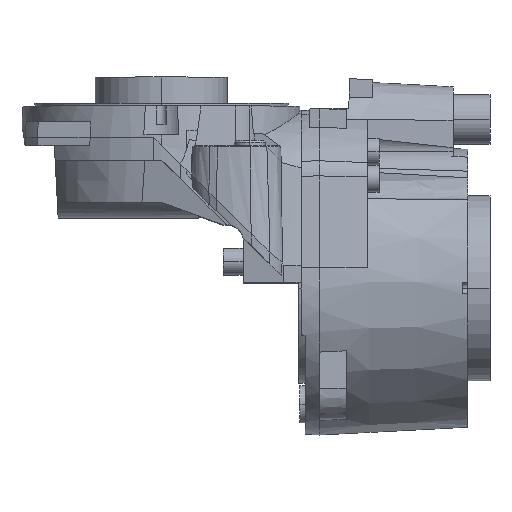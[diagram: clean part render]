
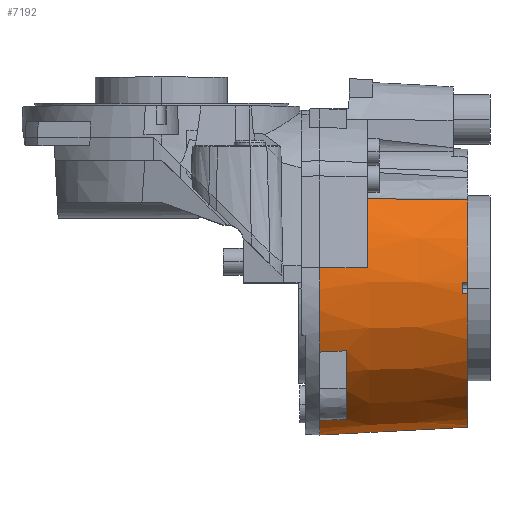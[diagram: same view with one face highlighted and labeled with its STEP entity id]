
A CAD part, top view. The second image highlights one B-rep face of the part: STEP entity #7192.
In plain terms, the highlighted conical face has half-angle 3 degrees and reference radius 55.564 mm.
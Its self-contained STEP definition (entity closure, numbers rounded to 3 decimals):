
#205 = EDGE_CURVE ( 'NONE', #16103, #9442, #13504, .T. ) ;
#396 = B_SPLINE_CURVE_WITH_KNOTS ( 'NONE', 3,
 ( #16641, #12736, #10193, #2294 ),
 .UNSPECIFIED., .F., .F.,
 ( 4, 4 ),
 ( 0., 1. ),
 .UNSPECIFIED. ) ;
#440 = DIRECTION ( 'NONE',  ( 1., 0., 0. ) ) ;
#576 = CARTESIAN_POINT ( 'NONE',  ( 996., 0., 1495. ) ) ;
#623 = ORIENTED_EDGE ( 'NONE', *, *, #8823, .F. ) ;
#784 = CARTESIAN_POINT ( 'NONE',  ( 1008., 7.755, 1549.385 ) ) ;
#847 = CARTESIAN_POINT ( 'NONE',  ( 1052., 0., 1495. ) ) ;
#883 = EDGE_CURVE ( 'NONE', #13689, #16271, #13375, .T. ) ;
#1012 = AXIS2_PLACEMENT_3D ( 'NONE', #12390, #12336, #12213 ) ;
#1168 = AXIS2_PLACEMENT_3D ( 'NONE', #576, #7164, #12454 ) ;
#1274 = ORIENTED_EDGE ( 'NONE', *, *, #7535, .T. ) ;
#1296 = VERTEX_POINT ( 'NONE', #5242 ) ;
#2005 = CARTESIAN_POINT ( 'NONE',  ( 996., 0., 1495. ) ) ;
#2041 = CIRCLE ( 'NONE', #10278, 55.564 ) ;
#2163 = VERTEX_POINT ( 'NONE', #15653 ) ;
#2207 = DIRECTION ( 'NONE',  ( 0., 0., 1. ) ) ;
#2221 = ORIENTED_EDGE ( 'NONE', *, *, #15059, .T. ) ;
#2255 = CARTESIAN_POINT ( 'NONE',  ( 1002., 7.744, 1549.704 ) ) ;
#2294 = CARTESIAN_POINT ( 'NONE',  ( 1006., -23.752, 1544.651 ) ) ;
#2320 = CIRCLE ( 'NONE', #15517, 54.62 ) ;
#2434 = AXIS2_PLACEMENT_3D ( 'NONE', #13759, #5888, #15015 ) ;
#2524 = CARTESIAN_POINT ( 'NONE',  ( 996., -55.564, 1495. ) ) ;
#2563 = EDGE_CURVE ( 'NONE', #16103, #13689, #9986, .T. ) ;
#2608 = ORIENTED_EDGE ( 'NONE', *, *, #15365, .T. ) ;
#2769 = CARTESIAN_POINT ( 'NONE',  ( 1050., 2., 1547.696 ) ) ;
#3167 = CARTESIAN_POINT ( 'NONE',  ( 1014., 0., 1495. ) ) ;
#3189 = CARTESIAN_POINT ( 'NONE',  ( 1052., -52.629, 1495. ) ) ;
#3206 = EDGE_LOOP ( 'NONE', ( #3888, #16172, #5151, #6043, #16656, #623, #7703, #7135, #2221, #10656, #2608, #1274, #16550, #13163 ) ) ;
#3332 = DIRECTION ( 'NONE',  ( 0., -1., 0. ) ) ;
#3888 = ORIENTED_EDGE ( 'NONE', *, *, #205, .F. ) ;
#3963 = AXIS2_PLACEMENT_3D ( 'NONE', #847, #10106, #2207 ) ;
#4200 = EDGE_CURVE ( 'NONE', #6670, #2163, #10479, .T. ) ;
#4211 = EDGE_CURVE ( 'NONE', #10808, #1296, #2320, .T. ) ;
#4248 = CARTESIAN_POINT ( 'NONE',  ( 996., -55.564, 1495. ) ) ;
#4313 = EDGE_CURVE ( 'NONE', #16886, #9442, #8506, .T. ) ;
#4331 = CARTESIAN_POINT ( 'NONE',  ( 1006., -49.651, 1518.752 ) ) ;
#4498 = DIRECTION ( 'NONE',  ( 0., -1., 0. ) ) ;
#4703 = AXIS2_PLACEMENT_3D ( 'NONE', #2005, #11249, #3332 ) ;
#4708 = CIRCLE ( 'NONE', #2434, 52.734 ) ;
#4820 = VERTEX_POINT ( 'NONE', #14233 ) ;
#5151 = ORIENTED_EDGE ( 'NONE', *, *, #883, .T. ) ;
#5173 = B_SPLINE_CURVE_WITH_KNOTS ( 'NONE', 3,
 ( #13643, #7074, #8408, #9733 ),
 .UNSPECIFIED., .F., .F.,
 ( 4, 4 ),
 ( 0., 1. ),
 .UNSPECIFIED. ) ;
#5242 = CARTESIAN_POINT ( 'NONE',  ( 1014., 7.764, 1549.066 ) ) ;
#5280 = AXIS2_PLACEMENT_3D ( 'NONE', #8366, #440, #9692 ) ;
#5290 = B_SPLINE_CURVE_WITH_KNOTS ( 'NONE', 3,
 ( #9191, #7867, #14423, #6602 ),
 .UNSPECIFIED., .F., .F.,
 ( 4, 4 ),
 ( 0., 1. ),
 .UNSPECIFIED. ) ;
#5888 = DIRECTION ( 'NONE',  ( -1., 0., 0. ) ) ;
#6043 = ORIENTED_EDGE ( 'NONE', *, *, #9588, .T. ) ;
#6157 = CARTESIAN_POINT ( 'NONE',  ( 1014., 7.764, 1549.066 ) ) ;
#6602 = CARTESIAN_POINT ( 'NONE',  ( 1014., 33.9, 1537.827 ) ) ;
#6670 = VERTEX_POINT ( 'NONE', #13362 ) ;
#6730 = CARTESIAN_POINT ( 'NONE',  ( 1051.333, 2., 1547.626 ) ) ;
#6792 = EDGE_CURVE ( 'NONE', #15235, #16886, #5173, .T. ) ;
#6871 = DIRECTION ( 'NONE',  ( -1., 0., 0. ) ) ;
#7074 = CARTESIAN_POINT ( 'NONE',  ( 1002.695, -49.766, 1518.912 ) ) ;
#7135 = ORIENTED_EDGE ( 'NONE', *, *, #4211, .T. ) ;
#7164 = DIRECTION ( 'NONE',  ( -1., 0., 0. ) ) ;
#7192 = ADVANCED_FACE ( 'NONE', ( #7624 ), #10743, .T. ) ;
#7321 = CARTESIAN_POINT ( 'NONE',  ( 1014., 33.9, 1537.827 ) ) ;
#7535 = EDGE_CURVE ( 'NONE', #8727, #15235, #8248, .T. ) ;
#7624 = FACE_OUTER_BOUND ( 'NONE', #3206, .T. ) ;
#7703 = ORIENTED_EDGE ( 'NONE', *, *, #15580, .T. ) ;
#7867 = CARTESIAN_POINT ( 'NONE',  ( 1040.442, 33.463, 1536.405 ) ) ;
#8248 = CIRCLE ( 'NONE', #5280, 55.04 ) ;
#8366 = CARTESIAN_POINT ( 'NONE',  ( 1006., 0., 1495. ) ) ;
#8376 = CARTESIAN_POINT ( 'NONE',  ( 1006., -23.752, 1544.651 ) ) ;
#8408 = CARTESIAN_POINT ( 'NONE',  ( 999.361, -49.883, 1519.073 ) ) ;
#8506 = CIRCLE ( 'NONE', #4703, 55.564 ) ;
#8727 = VERTEX_POINT ( 'NONE', #8376 ) ;
#8823 = EDGE_CURVE ( 'NONE', #10622, #2163, #13166, .T. ) ;
#8850 = CARTESIAN_POINT ( 'NONE',  ( 1052., -2., 1547.591 ) ) ;
#9191 = CARTESIAN_POINT ( 'NONE',  ( 1052., 33.396, 1535.676 ) ) ;
#9442 = VERTEX_POINT ( 'NONE', #2524 ) ;
#9588 = EDGE_CURVE ( 'NONE', #16271, #6670, #4708, .T. ) ;
#9692 = DIRECTION ( 'NONE',  ( 0., -1., 0. ) ) ;
#9733 = CARTESIAN_POINT ( 'NONE',  ( 996., -50., 1519.235 ) ) ;
#9986 = CIRCLE ( 'NONE', #1012, 52.629 ) ;
#10106 = DIRECTION ( 'NONE',  ( 1., 0., 0. ) ) ;
#10193 = CARTESIAN_POINT ( 'NONE',  ( 1002.695, -23.912, 1544.766 ) ) ;
#10278 = AXIS2_PLACEMENT_3D ( 'NONE', #14689, #6871, #16009 ) ;
#10479 = B_SPLINE_CURVE_WITH_KNOTS ( 'NONE', 3,
 ( #2769, #10671, #6730, #15855 ),
 .UNSPECIFIED., .F., .F.,
 ( 4, 4 ),
 ( 0., 1. ),
 .UNSPECIFIED. ) ;
#10622 = VERTEX_POINT ( 'NONE', #14576 ) ;
#10656 = ORIENTED_EDGE ( 'NONE', *, *, #10722, .F. ) ;
#10671 = CARTESIAN_POINT ( 'NONE',  ( 1050.667, 2., 1547.661 ) ) ;
#10722 = EDGE_CURVE ( 'NONE', #15644, #4820, #2041, .T. ) ;
#10743 = CONICAL_SURFACE ( 'NONE', #1168, 55.564, 0.052 ) ;
#10808 = VERTEX_POINT ( 'NONE', #7321 ) ;
#10914 = B_SPLINE_CURVE_WITH_KNOTS ( 'NONE', 3,
 ( #6157, #784, #2255, #11493 ),
 .UNSPECIFIED., .F., .F.,
 ( 4, 4 ),
 ( 0., 1. ),
 .UNSPECIFIED. ) ;
#11249 = DIRECTION ( 'NONE',  ( 1., 0., 0. ) ) ;
#11350 = DIRECTION ( 'NONE',  ( -0.999, -0.052, 0. ) ) ;
#11493 = CARTESIAN_POINT ( 'NONE',  ( 996., 7.733, 1550.023 ) ) ;
#12064 = CARTESIAN_POINT ( 'NONE',  ( 996., -24.235, 1545. ) ) ;
#12213 = DIRECTION ( 'NONE',  ( 0., -1., 0. ) ) ;
#12336 = DIRECTION ( 'NONE',  ( -1., 0., 0. ) ) ;
#12390 = CARTESIAN_POINT ( 'NONE',  ( 1052., 0., 1495. ) ) ;
#12421 = DIRECTION ( 'NONE',  ( 1., 0., 0. ) ) ;
#12454 = DIRECTION ( 'NONE',  ( 0., -1., 0. ) ) ;
#12736 = CARTESIAN_POINT ( 'NONE',  ( 999.362, -24.073, 1544.883 ) ) ;
#13017 = CARTESIAN_POINT ( 'NONE',  ( 996., -50., 1519.235 ) ) ;
#13163 = ORIENTED_EDGE ( 'NONE', *, *, #4313, .T. ) ;
#13166 = CIRCLE ( 'NONE', #3963, 52.629 ) ;
#13362 = CARTESIAN_POINT ( 'NONE',  ( 1050., 2., 1547.696 ) ) ;
#13375 = B_SPLINE_CURVE_WITH_KNOTS ( 'NONE', 3,
 ( #13971, #14344, #14073, #13954 ),
 .UNSPECIFIED., .F., .F.,
 ( 4, 4 ),
 ( 0., 1. ),
 .UNSPECIFIED. ) ;
#13504 = LINE ( 'NONE', #4248, #13871 ) ;
#13643 = CARTESIAN_POINT ( 'NONE',  ( 1006., -49.651, 1518.752 ) ) ;
#13689 = VERTEX_POINT ( 'NONE', #8850 ) ;
#13759 = CARTESIAN_POINT ( 'NONE',  ( 1050., 0., 1495. ) ) ;
#13871 = VECTOR ( 'NONE', #11350, 1000. ) ;
#13954 = CARTESIAN_POINT ( 'NONE',  ( 1050., -2., 1547.696 ) ) ;
#13971 = CARTESIAN_POINT ( 'NONE',  ( 1052., -2., 1547.591 ) ) ;
#14073 = CARTESIAN_POINT ( 'NONE',  ( 1050.667, -2., 1547.661 ) ) ;
#14233 = CARTESIAN_POINT ( 'NONE',  ( 996., 7.733, 1550.023 ) ) ;
#14344 = CARTESIAN_POINT ( 'NONE',  ( 1051.333, -2., 1547.626 ) ) ;
#14423 = CARTESIAN_POINT ( 'NONE',  ( 1027.775, 33.628, 1537.122 ) ) ;
#14576 = CARTESIAN_POINT ( 'NONE',  ( 1052., 33.396, 1535.676 ) ) ;
#14689 = CARTESIAN_POINT ( 'NONE',  ( 996., 0., 1495. ) ) ;
#15015 = DIRECTION ( 'NONE',  ( 0., -1., 0. ) ) ;
#15059 = EDGE_CURVE ( 'NONE', #1296, #4820, #10914, .T. ) ;
#15235 = VERTEX_POINT ( 'NONE', #4331 ) ;
#15365 = EDGE_CURVE ( 'NONE', #15644, #8727, #396, .T. ) ;
#15517 = AXIS2_PLACEMENT_3D ( 'NONE', #3167, #12421, #4498 ) ;
#15580 = EDGE_CURVE ( 'NONE', #10622, #10808, #5290, .T. ) ;
#15644 = VERTEX_POINT ( 'NONE', #12064 ) ;
#15653 = CARTESIAN_POINT ( 'NONE',  ( 1052., 2., 1547.591 ) ) ;
#15855 = CARTESIAN_POINT ( 'NONE',  ( 1052., 2., 1547.591 ) ) ;
#16009 = DIRECTION ( 'NONE',  ( 0., 1., 0. ) ) ;
#16103 = VERTEX_POINT ( 'NONE', #3189 ) ;
#16172 = ORIENTED_EDGE ( 'NONE', *, *, #2563, .T. ) ;
#16271 = VERTEX_POINT ( 'NONE', #16452 ) ;
#16452 = CARTESIAN_POINT ( 'NONE',  ( 1050., -2., 1547.696 ) ) ;
#16550 = ORIENTED_EDGE ( 'NONE', *, *, #6792, .T. ) ;
#16641 = CARTESIAN_POINT ( 'NONE',  ( 996., -24.235, 1545. ) ) ;
#16656 = ORIENTED_EDGE ( 'NONE', *, *, #4200, .T. ) ;
#16886 = VERTEX_POINT ( 'NONE', #13017 ) ;
